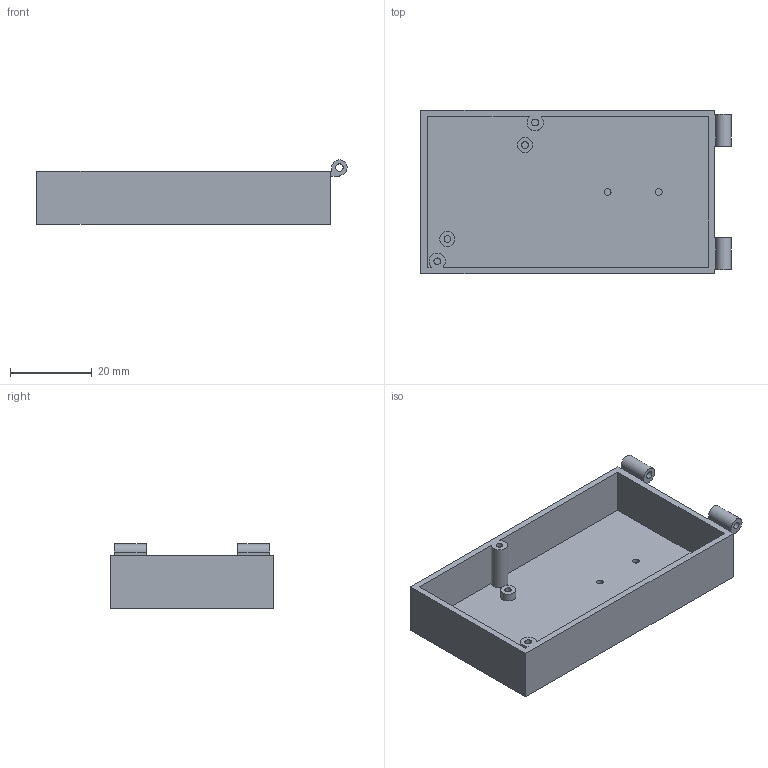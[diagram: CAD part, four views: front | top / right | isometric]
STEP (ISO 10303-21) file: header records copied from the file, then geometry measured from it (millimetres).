
FILE_DESCRIPTION(('Open CASCADE Model'),'2;1');
FILE_NAME('body','2026-11-19T17:25:15',('Author'),('Open CASCADE'), 'Open CASCADE STEP processor 7.8','build123d','Unknown');
FILE_SCHEMA(('AUTOMOTIVE_DESIGN { 1 0 10303 214 1 1 1 1 }'));
Length unit declared in the file: millimetre
Products named in the file (1): body
Bounding box: 76 x 40 x 15.74 mm (x, y, z)
Volume: 9018.6 mm3; surface area: 11631 mm2
Topology: 1 solids, 1 shells, 47 faces, 108 edges, 72 vertices
Faces by surface type: plane 33, cylinder 14
Full cylindrical faces by diameter (mm): 1.66 x6, 1.8 x2, 3.7 x2
Entity records: 2731 total; most frequent: CARTESIAN_POINT 510, DIRECTION 402, LINE 226, VECTOR 226, ORIENTED_EDGE 216, PCURVE 216, DEFINITIONAL_REPRESENTATION 216, EDGE_CURVE 108
